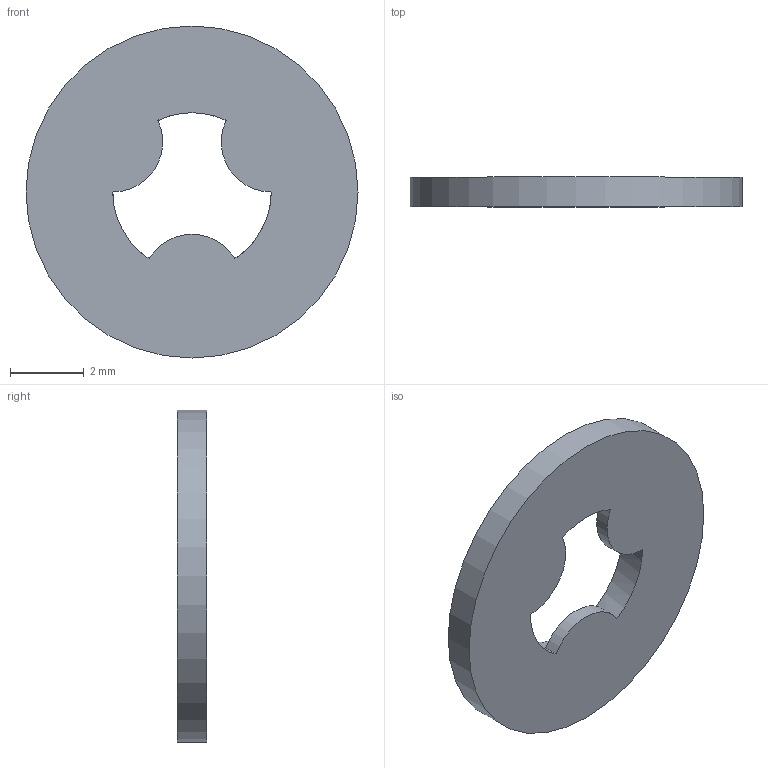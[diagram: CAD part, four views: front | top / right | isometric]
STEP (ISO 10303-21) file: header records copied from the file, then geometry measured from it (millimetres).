
FILE_DESCRIPTION (( 'STEP AP214' ), '1' );
FILE_NAME ('F12753.step', '2024-12-03T16:15:22', ( '' ), ( '' ), 'SwSTEP 2.0', 'SolidWorks 2023', '' );
FILE_SCHEMA (( 'AUTOMOTIVE_DESIGN' ));
Length unit declared in the file: millimetre
Products named in the file (1): F12753
Bounding box: 9 x 0.8 x 9 mm (x, y, z)
Volume: 41.2 mm3; surface area: 141.4 mm2
Topology: 1 solids, 1 shells, 10 faces, 24 edges, 16 vertices
Faces by surface type: cylinder 5, plane 5
Full cylindrical faces by diameter (mm): 4.3 x1, 9 x1
Entity records: 311 total; most frequent: DIRECTION 58, CARTESIAN_POINT 47, ORIENTED_EDGE 42, AXIS2_PLACEMENT_3D 26, EDGE_CURVE 21, VERTEX_POINT 15, CIRCLE 15, EDGE_LOOP 14
